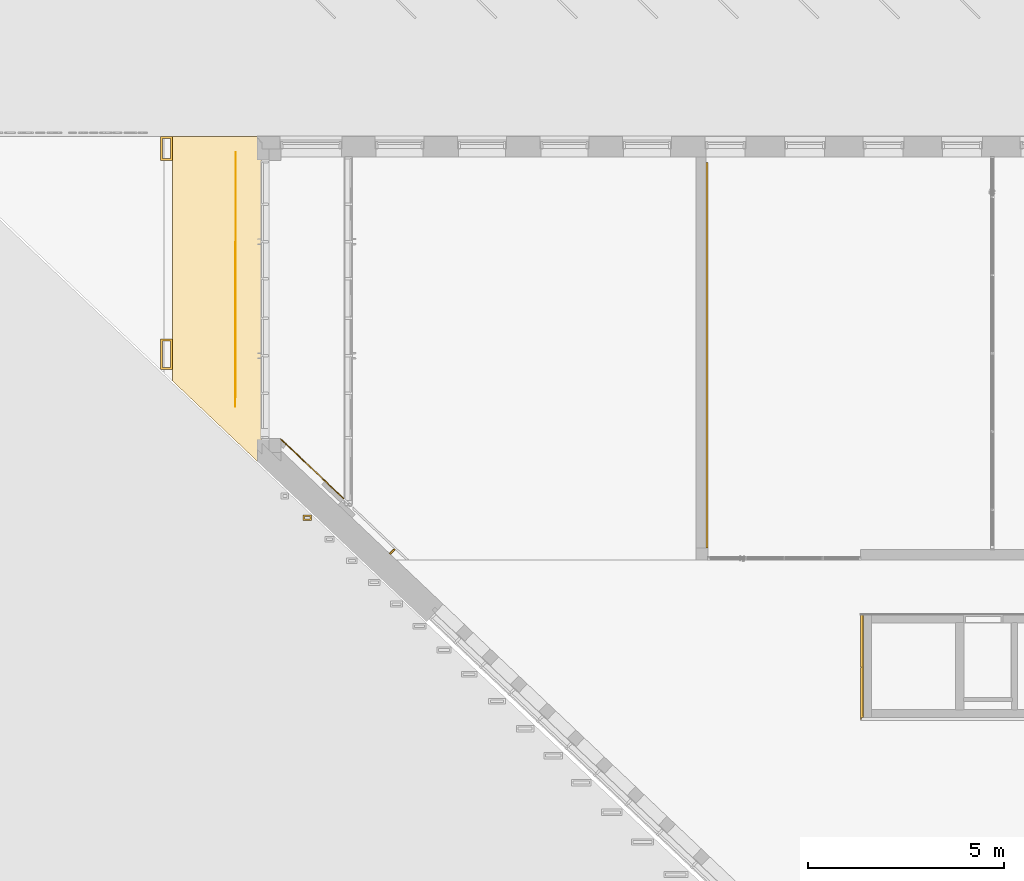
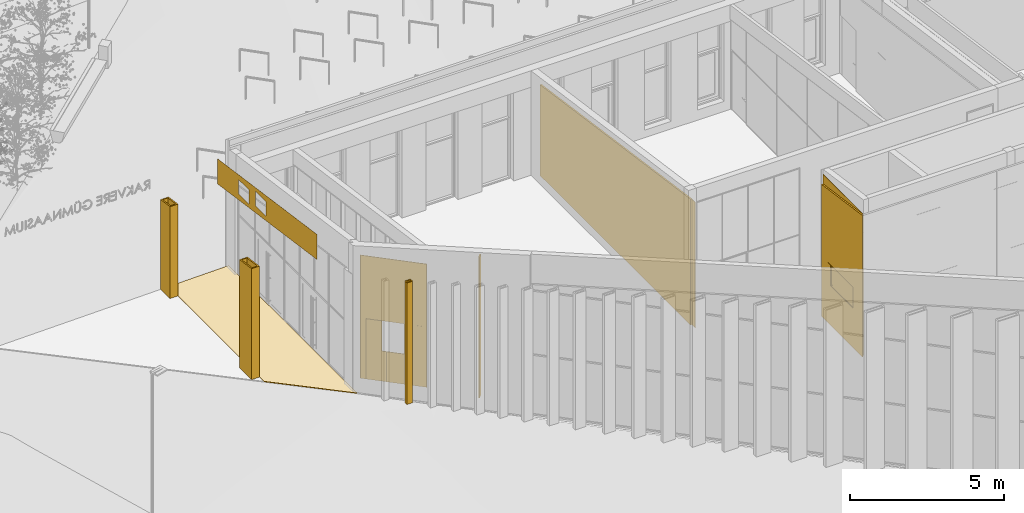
# One storey, part 178 of 246: 9 coverings, 2 doors, 4 openings.
"""IFC2X3 building model written with IfcOpenShell, lengths in millimetres."""

from ifc_helpers import new_model, entity, si_unit, converted_unit, derived_unit, money_unit, direction, frame, origin_with_axes, place, context, subcontext, project, spatial, faceted_brep, material, material_list, type_object, element, fill, save


model = new_model("IFC2X3")

# Units and contexts
model_context = context("Model", 3, precision=0.01, world=origin_with_axes(), true_north=direction((0.0, 1.0)))
body_context = subcontext(model_context, "Body", "Model", "MODEL_VIEW")
ifc_project = project(units=[si_unit("LENGTHUNIT", "METRE", prefix="MILLI"), si_unit("AREAUNIT", "SQUARE_METRE"), si_unit("VOLUMEUNIT", "CUBIC_METRE"), converted_unit("PLANEANGLEUNIT", "DEGREE", entity("IfcPlaneAngleMeasure", 0.0174532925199), si_unit("PLANEANGLEUNIT", "RADIAN"), dimensions=[0, 0, 0, 0, 0, 0, 0]), si_unit("SOLIDANGLEUNIT", "STERADIAN"), money_unit("EUR"), converted_unit("TIMEUNIT", "Year", entity("IfcTimeMeasure", 31556926.0), si_unit("TIMEUNIT", "SECOND"), dimensions=[0, 0, 1, 0, 0, 0, 0]), si_unit("MASSUNIT", "GRAM", prefix="KILO"), si_unit("THERMODYNAMICTEMPERATUREUNIT", "DEGREE_CELSIUS"), si_unit("LUMINOUSINTENSITYUNIT", "LUMEN"), si_unit("ENERGYUNIT", "JOULE", prefix="MEGA"), derived_unit("THERMALCONDUCTANCEUNIT", [(si_unit("POWERUNIT", "WATT"), 1), (si_unit("LENGTHUNIT", "METRE"), -1), (si_unit("THERMODYNAMICTEMPERATUREUNIT", "KELVIN"), -1)]), derived_unit("SPECIFICHEATCAPACITYUNIT", [(si_unit("ENERGYUNIT", "JOULE"), 1), (si_unit("MASSUNIT", "GRAM", prefix="KILO"), -1), (si_unit("THERMODYNAMICTEMPERATUREUNIT", "KELVIN"), -1)]), derived_unit("MASSDENSITYUNIT", [(si_unit("MASSUNIT", "GRAM", prefix="KILO"), 1), (si_unit("VOLUMEUNIT", "CUBIC_METRE"), -1)])], contexts=[model_context])

# Site, building, storey
site_placement = place(None, origin_with_axes())
site = spatial("IfcSite", under=ifc_project, at=site_placement, Name="L.Koidula tn 11b", CompositionType="ELEMENT")
building_placement = place(site_placement, origin_with_axes())
building = spatial("IfcBuilding", under=site, at=building_placement, Name="Rakvere Riigigümnaasium", CompositionType="ELEMENT")
storey_placement = place(building_placement, origin_with_axes())
storey = spatial("IfcBuildingStorey", under=building, at=storey_placement, Name="1.korrus 0,00", CompositionType="ELEMENT", Elevation=0.0)

# Covering, openings, doors
ifc_material_1 = material(Name="MDF")
covering_type_1 = type_object("IfcCoveringType", Name="MDF 20", PredefinedType="CLADDING")
covering_1_placement = place(storey_placement, frame((14730.0342033, 64425.3443865, 0.0), z_axis=(0.0, 0.0, 1.0), x_axis=(0.725934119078, -0.687764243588, 0.0)))
covering_1 = element("IfcCovering", 1, at=covering_1_placement, inside=storey, type_object=covering_type_1, material=ifc_material_1, Name="S-12", PredefinedType="CLADDING", context=body_context, shape_type="Brep", body=[
    faceted_brep([(0.000146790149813, 0.000139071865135, 2401.0), (0.000146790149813, 0.000139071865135, 4593.1942667), (738.118302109, 0.000220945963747, 4665.44373749), (738.118302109, 0.000220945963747, 2401.0), (2.83112327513, -2.98795232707, 4593.78009272), (18.9483926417, -19.9997057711, 2401.0), (18.9486660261, -19.999994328, 4898.32839243), (2.83112327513, -2.98795232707, 4898.32839243), (738.118301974, -1.32627138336, 4665.58078499), (738.118301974, -1.32627138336, 4898.32839243), (738.118300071, -19.999779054, 4898.32839243), (738.118300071, -19.999779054, 2401.0)], [[[0, 1, 2, 3]], [[4, 1, 0, 5, 6, 7]], [[1, 4, 8, 2]], [[2, 8, 9, 10, 11, 3]], [[5, 0, 3, 11]], [[6, 5, 11, 10]], [[7, 6, 10, 9]], [[4, 7, 9, 8]]]),
    faceted_brep([(0.000146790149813, 0.000139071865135, 0.0), (0.000146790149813, 0.000139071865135, 2399.0), (212.0, 0.000274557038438, 2399.0), (212.0, 0.0, 0.0), (18.9483926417, -19.9997057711, 2399.0), (18.9486713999, -20.0, 0.0), (212.0, -19.999725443, 2399.0), (212.0, -20.0, 0.0)], [[[0, 1, 2, 3]], [[4, 1, 0, 5]], [[1, 4, 6, 2]], [[3, 2, 6, 7]], [[5, 0, 3, 7]], [[4, 5, 7, 6]]]),
    faceted_brep([(1562.0, 0.0, 1200.0), (1479.45163544, 0.000145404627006, 1200.0), (1479.45163544, 0.000145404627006, 2399.0), (2217.78496878, 7.01689799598e-05, 2399.0), (2217.78496878, 7.01689799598e-05, 2401.0), (1479.45163544, 0.000145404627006, 2401.0), (1479.45163544, 0.000145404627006, 4898.32839243), (2237.22162248, 0.0, 4898.32839243), (2237.22162248, 0.0, 0.0), (1562.0, 0.0, 0.0), (1562.0, -20.0, 1200.0), (1479.4516334, -19.9998545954, 1200.0), (1479.4516334, -19.9998545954, 2399.0), (2217.78496674, -19.999929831, 2399.0), (2217.78496674, -19.999929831, 2401.0), (1479.4516334, -19.9998545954, 2401.0), (1479.4516334, -19.9998545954, 4898.32839243), (2237.22162248, -20.0, 4898.32839243), (2237.22162248, -20.0, 0.0), (1562.0, -20.0, 0.0)], [[[0, 1, 2, 3, 4, 5, 6, 7, 8, 9]], [[0, 10, 11, 1]], [[1, 11, 12, 2]], [[12, 13, 3, 2]], [[13, 14, 4, 3]], [[14, 15, 5, 4]], [[16, 6, 5, 15]], [[17, 7, 6, 16]], [[17, 18, 8, 7]], [[8, 18, 19, 9]], [[19, 10, 0, 9]], [[15, 14, 13, 12, 11, 10, 19, 18, 17, 16]]]),
    faceted_brep([(740.118302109, 0.000220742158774, 4665.6395042), (1325.05246721, 0.000145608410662, 4722.89482581), (1325.05933858, 0.000161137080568, 4898.32839243), (1477.45163544, 0.000145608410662, 4898.32839243), (1477.45163544, 0.000145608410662, 2401.0), (740.118302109, 0.000220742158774, 2401.0), (740.118301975, -1.32175156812, 4665.77608472), (740.118301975, -1.32175156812, 4898.32839243), (740.118300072, -19.9997792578, 4898.32839243), (1477.4516334, -19.9998543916, 4898.32839243), (1477.4516334, -19.9998543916, 2401.0), (740.118300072, -19.9997792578, 2401.0)], [[[0, 1, 2, 3, 4, 5]], [[1, 0, 6]], [[7, 2, 1, 6]], [[2, 7, 8, 9, 3]], [[9, 10, 4, 3]], [[11, 5, 4, 10]], [[6, 0, 5, 11, 8, 7]], [[8, 11, 10, 9]]]),
])
opening_1_placement = place(covering_1_placement, frame((1224.5, 0.0, 0.0), z_axis=(0.0, 0.0, 1.0), x_axis=(1.0, 0.0, 0.0)))
opening_1 = element("IfcOpeningElement", 2, at=opening_1_placement, cuts=covering_1, Name="SL01", context=body_context, shape_type="Brep", body=[
    faceted_brep([(337.5, -20.0, 1200.0), (337.5, -20.0, 0.0), (337.5, 40.0, 0.0), (337.5, 40.0, 1200.0), (-337.5, -20.0, 1200.0), (-337.5, -20.0, 0.0), (-337.5, 40.0, 0.0), (-337.5, 40.0, 1200.0)], [[[0, 1, 2, 3]], [[0, 4, 5, 1]], [[1, 5, 6, 2]], [[3, 2, 6, 7]], [[4, 0, 3, 7]], [[5, 4, 7, 6]]]),
])
opening_2_placement = place(covering_1_placement, frame((549.5, 0.0, 0.0), z_axis=(0.0, 0.0, 1.0), x_axis=(1.0, 0.0, 0.0)))
opening_2 = element("IfcOpeningElement", 3, at=opening_2_placement, cuts=covering_1, Name="SL01.2", context=body_context, shape_type="Brep", body=[
    faceted_brep([(-337.5, 40.0, 2400.0), (-337.5, 40.0, 0.0), (-337.5, -20.0, 0.0), (-337.5, -20.0, 2400.0), (337.5, 40.0, 2400.0), (337.5, 40.0, 0.0), (337.5, -20.0, 0.0), (337.5, -20.0, 2400.0)], [[[0, 1, 2, 3]], [[0, 4, 5, 1]], [[1, 5, 6, 2]], [[3, 2, 6, 7]], [[4, 0, 3, 7]], [[5, 4, 7, 6]]]),
])
door_style_1 = type_object("IfcDoorStyle", Name="Door 23", ConstructionType="NOTDEFINED", OperationType="SINGLE_SWING_RIGHT", ParameterTakesPrecedence=False, Sizeable=False)
door_1_placement = place(opening_1_placement, frame((-337.5, 0.0, 0.0), z_axis=(0.0, 0.0, 1.0), x_axis=(1.0, 0.0, 0.0)))
door_1 = element("IfcDoor", 4, at=door_1_placement, inside=storey, type_object=door_style_1, Name="SL01", ObjectType="DOOR", OverallHeight=1200.0, OverallWidth=675.0, context=body_context, shape_type="Brep", body=[
    faceted_brep([(0.0, -20.0, 1200.0), (590.451633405, -19.9998543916, 1200.0), (590.451635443, 0.000145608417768, 1200.0), (0.0, 0.0, 1200.0), (0.0, -20.0, 0.0), (590.451633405, -19.9998543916, 0.0), (590.451635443, 0.000145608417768, 0.0), (0.0, 0.0, 0.0)], [[[0, 1, 2, 3]], [[4, 5, 1, 0]], [[5, 6, 2, 1]], [[3, 2, 6, 7]], [[0, 3, 7, 4]], [[7, 6, 5, 4]]]),
    faceted_brep([(675.0, 0.0, 0.0), (592.451635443, 0.000145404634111, 0.0), (592.451635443, 0.000145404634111, 1200.0), (675.0, 0.0, 1200.0), (675.0, -20.0, 0.0), (592.451633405, -19.9998545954, 0.0), (592.451633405, -19.9998545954, 1200.0), (675.0, -20.0, 1200.0)], [[[0, 1, 2, 3]], [[4, 5, 1, 0]], [[5, 6, 2, 1]], [[3, 2, 6, 7]], [[4, 0, 3, 7]], [[7, 6, 5, 4]]]),
])
fill(opening_1, door_1)
door_style_2 = type_object("IfcDoorStyle", Name="Door 23", ConstructionType="NOTDEFINED", OperationType="SINGLE_SWING_LEFT", ParameterTakesPrecedence=False, Sizeable=False)
door_2_placement = place(opening_2_placement, frame((-337.5, 0.0, 0.0), z_axis=(0.0, 0.0, 1.0), x_axis=(1.0, 0.0, 0.0)))
door_2 = element("IfcDoor", 5, at=door_2_placement, inside=storey, type_object=door_style_2, Name="SL01.2", ObjectType="DOOR", OverallHeight=2400.0, OverallWidth=675.0, context=body_context, shape_type="Brep", body=[
    faceted_brep([(0.0, 0.0, 0.0), (0.0, 0.000274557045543, 2399.0), (526.118302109, 0.000220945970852, 2399.0), (526.118302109, 0.000220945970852, 0.0), (0.0, -20.0, 0.0), (0.0, -19.999725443, 2399.0), (526.118300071, -19.999779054, 2399.0), (526.118300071, -19.999779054, 0.0)], [[[0, 1, 2, 3]], [[4, 5, 1, 0]], [[5, 6, 2, 1]], [[3, 2, 6, 7]], [[0, 3, 7, 4]], [[7, 6, 5, 4]]]),
    faceted_brep([(528.118302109, 0.00022074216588, 1200.0), (675.0, 0.000205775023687, 1200.0), (675.0, 0.0, 0.0), (528.118302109, 0.00022074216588, 0.0), (675.0, -19.9998970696, 1200.0), (528.118300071, -19.9997792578, 1200.0), (675.0, -20.0, 0.0), (528.118300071, -19.9997792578, 0.0)], [[[0, 1, 2, 3]], [[4, 1, 0, 5]], [[1, 4, 6, 2]], [[6, 7, 3, 2]], [[5, 0, 3, 7]], [[4, 5, 7, 6]]]),
])
fill(opening_2, door_2)

# Coverings
ifc_material_2 = material(Name="Karkass-puit")
ifc_material_3 = material(Name="Puit-fassaad")
ifc_material_list_1 = material_list([ifc_material_2, ifc_material_3])
covering_type_2 = type_object("IfcCoveringType", Name="AR_Post_laudisega 300 x 786", PredefinedType="CLADDING")
covering_2_placement = place(storey_placement, frame((11851.2708409, 66580.7486819, -68.2248056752), z_axis=(0.0, 0.0, 1.0), x_axis=(1.0, 0.0, 0.0)))
element("IfcCovering", 6, at=covering_2_placement, inside=storey, type_object=covering_type_2, material=ifc_material_list_1, Name="Postid", PredefinedType="CLADDING", context=body_context, shape_type="Brep", body=[
    faceted_brep([(62.7635656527, -346.999969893, 4405.51159128), (62.7635656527, 334.852628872, 4308.46959595), (62.7635656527, 334.852628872, 0.0), (62.7635656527, -346.999969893, 0.0), (94.7635642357, -378.999968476, 4410.06586532), (94.7635642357, 366.999968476, 4303.89435182), (-164.715839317, 366.999968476, 4303.89435328), (-164.715839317, -378.999968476, 4410.06586679), (-133.106962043, 334.852628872, 4308.46959706), (-133.106962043, -346.999969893, 4405.51159239), (-133.106962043, 334.852628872, 0.0), (-164.715839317, 366.999968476, 0.0), (94.7635642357, 366.999968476, 0.0), (94.7635642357, -378.999968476, 0.0), (-164.715839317, -378.999968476, 0.0), (-133.106962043, -346.999969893, 0.0)], [[[0, 1, 2, 3]], [[4, 5, 6, 7], [8, 1, 0, 9]], [[1, 8, 10, 2]], [[11, 12, 13, 14], [10, 15, 3, 2]], [[9, 0, 3, 15]], [[5, 4, 13, 12]], [[6, 5, 12, 11]], [[7, 6, 11, 14]], [[4, 7, 14, 13]], [[8, 9, 15, 10]]]),
    faceted_brep([(94.7635646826, -378.999966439, 4410.06586503), (94.7635646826, 366.999966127, 4303.89435215), (94.7635646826, 366.999966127, 0.0), (94.7635646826, -378.999966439, 0.0), (114.76356488, -398.999966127, 4412.91228639), (114.763564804, 386.999966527, 4301.04793047), (-184.763564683, 386.999966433, 4301.04793217), (-184.763564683, -398.999966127, 4412.91228808), (-164.715834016, 366.999966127, 4303.89435362), (-164.715834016, -378.999966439, 4410.0658665), (-164.715834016, 366.999966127, 0.0), (-184.763564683, -398.999966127, 0.0), (-184.763564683, 386.999966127, 0.0), (114.763564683, 386.999966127, 0.0), (114.763564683, -398.999966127, 0.0), (-164.715834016, -378.999966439, 0.0)], [[[0, 1, 2, 3]], [[4, 5, 6, 7], [8, 1, 0, 9]], [[1, 8, 10, 2]], [[11, 12, 13, 14], [3, 2, 10, 15]], [[9, 0, 3, 15]], [[5, 4, 14, 13]], [[6, 5, 13, 12]], [[7, 6, 12, 11]], [[4, 7, 11, 14]], [[8, 9, 15, 10]]]),
])
covering_type_3 = type_object("IfcCoveringType", Name="AR-Post_laudisega-1 300 x 614", PredefinedType="CLADDING")
covering_3_placement = place(storey_placement, frame((11851.2708409, 71999.45165, -65.442350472), z_axis=(0.0, 0.0, 1.0), x_axis=(1.0, 0.0, 0.0)))
element("IfcCovering", 7, at=covering_3_placement, inside=storey, type_object=covering_type_3, material=ifc_material_list_1, Name="Postid", PredefinedType="CLADDING", context=body_context, shape_type="Brep", body=[
    faceted_brep([(62.7635662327, -446.999966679, 3645.76560786), (62.7635662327, 62.8526351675, 3573.20283711), (62.7635662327, 62.8526351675, 0.0), (62.7635662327, -446.999966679, 0.0), (94.7635623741, -478.99996282, 3650.31988155), (94.7635623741, 94.99996282, 3568.62759468), (-164.715838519, 94.99996282, 3568.62759615), (-164.715838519, -478.99996282, 3650.31988302), (-133.106966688, 62.8526351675, 3573.20283822), (-133.106966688, -446.999966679, 3645.76560897), (-133.106966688, 62.8526351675, 0.0), (-164.715838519, 94.99996282, 0.0), (94.7635623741, 94.99996282, 0.0), (94.7635623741, -478.99996282, 0.0), (-164.715838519, -478.99996282, 0.0), (-133.106966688, -446.999966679, 0.0)], [[[0, 1, 2, 3]], [[4, 5, 6, 7], [8, 1, 0, 9]], [[1, 8, 10, 2]], [[11, 12, 13, 14], [10, 15, 3, 2]], [[9, 0, 3, 15]], [[5, 4, 13, 12]], [[6, 5, 12, 11]], [[7, 6, 11, 14]], [[4, 7, 14, 13]], [[8, 9, 15, 10]]]),
    faceted_brep([(94.7635646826, -478.999966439, 3650.31988207), (94.7635646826, 94.9999661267, 3568.62759421), (94.7635646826, 94.9999661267, 0.0), (94.7635646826, -478.999966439, 0.0), (114.763564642, -499.000033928, 3653.16631307), (114.763564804, 115.000078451, 3565.7811566), (-184.763564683, 115.000078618, 3565.78115827), (-184.763564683, -499.000034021, 3653.16631478), (-164.715834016, 94.9999661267, 3568.62759568), (-164.715834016, -478.999966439, 3650.31988353), (-164.715834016, 94.9999661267, 0.0), (-184.763564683, -498.999966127, 0.0), (-184.763564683, 114.999966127, 0.0), (114.763564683, 114.999966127, 0.0), (114.763564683, -498.999966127, 0.0), (-164.715834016, -478.999966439, 0.0)], [[[0, 1, 2, 3]], [[4, 5, 6, 7], [8, 1, 0, 9]], [[1, 8, 10, 2]], [[11, 12, 13, 14], [3, 2, 10, 15]], [[9, 0, 3, 15]], [[5, 4, 14, 13]], [[6, 5, 13, 12]], [[7, 6, 12, 11]], [[4, 7, 11, 14]], [[8, 9, 15, 10]]]),
])
ifc_material_4 = material(Name="Klaasvill")
ifc_material_list_2 = material_list([ifc_material_1, ifc_material_4])
covering_type_4 = type_object("IfcCoveringType", Name="SA - Akustiline sein 70 70", PredefinedType="CLADDING")
covering_4_placement = place(storey_placement, frame((29559.9900192, 57320.4546496, 0.0), z_axis=(0.0, 0.0, 1.0), x_axis=(0.0, 1.0, 0.0)))
element("IfcCovering", 8, at=covering_4_placement, inside=storey, type_object=covering_type_4, material=ifc_material_list_2, Name="S-03", PredefinedType="CLADDING", context=body_context, shape_type="Brep", body=[
    faceted_brep([(557.0, 70.0, 2399.0), (557.0, 50.0, 2399.0), (557.0, 50.0, 0.0), (557.0, 70.0, 0.0), (-50.0, 50.0, 2399.0), (-50.0, 70.0, 2399.0), (-50.0, 50.0, 0.0), (-50.0, 70.0, 0.0)], [[[0, 1, 2, 3]], [[4, 1, 0, 5]], [[1, 4, 6, 2]], [[3, 2, 6, 7]], [[5, 0, 3, 7]], [[4, 5, 7, 6]]]),
    faceted_brep([(1284.0, 50.0, 0.0), (1284.0, 50.0, 1568.99999966), (559.0, 50.0, 1568.99999966), (559.0, 50.0, 0.0), (1284.0, 70.0, 1569.0), (1284.0, 70.0, 0.0), (559.0, 70.0, 1569.0), (559.0, 70.0, 0.0)], [[[0, 1, 2, 3]], [[4, 1, 0, 5]], [[1, 4, 6, 2]], [[3, 2, 6, 7]], [[5, 0, 3, 7]], [[4, 5, 7, 6]]]),
    faceted_brep([(1284.0, 70.0, 4949.0), (1284.0, 50.0, 4949.0), (1284.0, 50.0, 2401.0), (1284.0, 70.0, 2401.0), (559.0, 50.0, 4949.0), (559.0, 70.0, 4949.0), (559.0, 50.0, 2401.0), (559.0, 70.0, 2401.0)], [[[0, 1, 2, 3]], [[4, 1, 0, 5]], [[1, 4, 6, 2]], [[3, 2, 6, 7]], [[5, 0, 3, 7]], [[4, 5, 7, 6]]]),
    faceted_brep([(2011.0, 50.0, 0.0), (2011.0, 50.0, 1568.99999966), (1286.0, 50.0, 1568.99999966), (1286.0, 50.0, 0.0), (2011.0, 70.0, 1569.0), (2011.0, 70.0, 0.0), (1286.0, 70.0, 1569.0), (1286.0, 70.0, 0.0)], [[[0, 1, 2, 3]], [[4, 1, 0, 5]], [[1, 4, 6, 2]], [[3, 2, 6, 7]], [[5, 0, 3, 7]], [[4, 5, 7, 6]]]),
    faceted_brep([(2011.0, 70.0, 4949.0), (2011.0, 50.0, 4949.0), (2011.0, 50.0, 2401.0), (2011.0, 70.0, 2401.0), (1286.0, 50.0, 4949.0), (1286.0, 70.0, 4949.0), (1286.0, 50.0, 2401.0), (1286.0, 70.0, 2401.0), (1714.29666667, 54.9524999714, 2401.0), (1811.22333333, 54.9524999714, 2401.0), (1811.22333333, 60.7399999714, 2401.0), (1714.29666667, 60.7399999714, 2401.0), (1818.14666667, 54.9524999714, 2401.0), (1915.07333333, 54.9524999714, 2401.0), (1915.07333333, 60.7399999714, 2401.0), (1818.14666667, 60.7399999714, 2401.0), (1658.91, 54.9524999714, 2401.0), (1707.37333333, 54.9524999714, 2401.0), (1707.37333333, 60.7399999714, 2401.0), (1658.91, 60.7399999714, 2401.0), (1714.29666667, 54.9524999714, 2401.6), (1811.22333333, 54.9524999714, 2401.6), (1811.22333333, 60.7399999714, 2401.6), (1714.29666667, 60.7399999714, 2401.6), (1818.14666667, 54.9524999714, 2401.6), (1915.07333333, 54.9524999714, 2401.6), (1915.07333333, 60.7399999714, 2401.6), (1818.14666667, 60.7399999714, 2401.6), (1658.91, 54.9524999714, 2401.6), (1707.37333333, 54.9524999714, 2401.6), (1707.37333333, 60.7399999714, 2401.6), (1658.91, 60.7399999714, 2401.6)], [[[0, 1, 2, 3]], [[4, 1, 0, 5]], [[1, 4, 6, 2]], [[3, 2, 6, 7], [8, 9, 10, 11], [12, 13, 14, 15], [16, 17, 18, 19]], [[5, 0, 3, 7]], [[4, 5, 7, 6]], [[9, 8, 20, 21]], [[10, 9, 21, 22]], [[11, 10, 22, 23]], [[8, 11, 23, 20]], [[13, 12, 24, 25]], [[14, 13, 25, 26]], [[15, 14, 26, 27]], [[12, 15, 27, 24]], [[17, 16, 28, 29]], [[18, 17, 29, 30]], [[19, 18, 30, 31]], [[16, 19, 31, 28]], [[20, 23, 22, 21]], [[24, 27, 26, 25]], [[28, 31, 30, 29]]]),
    faceted_brep([(2620.0, 70.0, 2399.0), (2619.99999997, 50.0, 2399.0), (2619.99999997, 50.0, 0.0), (2620.0, 70.0, 0.0), (2013.0, 50.0, 2399.0), (2013.0, 70.0, 2399.0), (2013.0, 50.0, 0.0), (2013.0, 70.0, 0.0)], [[[0, 1, 2, 3]], [[4, 1, 0, 5]], [[1, 4, 6, 2]], [[6, 7, 3, 2]], [[5, 0, 3, 7]], [[4, 5, 7, 6]]]),
    faceted_brep([(557.0, 70.0, 4949.0), (557.0, 50.0, 4949.0), (557.0, 50.0, 2401.0), (557.0, 70.0, 2401.0), (-50.0, 50.0, 4949.0), (-50.0, 70.0, 4949.0), (-50.0, 50.0, 2401.0), (-50.0, 70.0, 2401.0)], [[[0, 1, 2, 3]], [[4, 1, 0, 5]], [[1, 4, 6, 2]], [[3, 2, 6, 7]], [[5, 0, 3, 7]], [[4, 5, 7, 6]]]),
    faceted_brep([(-50.0, 50.0, 4951.0), (557.0, 50.0, 4951.0), (557.0, 50.0, 5543.62144658), (-50.0, 50.0, 5630.01033954), (557.0, 70.0, 4951.0), (-50.0, 70.0, 4951.0), (557.0, 70.0, 5543.62144658), (-50.0, 70.0, 5630.01033954)], [[[0, 1, 2, 3]], [[4, 1, 0, 5]], [[1, 4, 6, 2]], [[2, 6, 7, 3]], [[5, 0, 3, 7]], [[4, 5, 7, 6]]]),
    faceted_brep([(559.0, 50.0, 4951.0), (1284.0, 50.0, 4951.0), (1284.0, 50.0, 5440.15402455), (559.0, 50.0, 5543.33680443), (1284.0, 70.0, 4951.0), (559.0, 70.0, 4951.0), (1284.0, 70.0, 5440.15402455), (559.0, 70.0, 5543.33680443)], [[[0, 1, 2, 3]], [[4, 1, 0, 5]], [[1, 4, 6, 2]], [[2, 6, 7, 3]], [[5, 0, 3, 7]], [[4, 5, 7, 6]]]),
    faceted_brep([(1286.0, 50.0, 4951.0), (2011.0, 50.0, 4951.0), (2011.0, 50.0, 5336.68660251), (1286.0, 50.0, 5439.8693824), (2011.0, 70.0, 4951.0), (1286.0, 70.0, 4951.0), (2011.0, 70.0, 5336.68660251), (1286.0, 70.0, 5439.8693824)], [[[0, 1, 2, 3]], [[4, 1, 0, 5]], [[1, 4, 6, 2]], [[2, 6, 7, 3]], [[5, 0, 3, 7]], [[4, 5, 7, 6]]]),
    faceted_brep([(2620.0, 70.0, 4949.0), (2619.99999997, 50.0, 4949.0), (2619.99999997, 50.0, 2401.0), (2620.0, 70.0, 2401.0), (2013.0, 50.0, 4949.0), (2013.0, 70.0, 4949.0), (2013.0, 50.0, 2401.0), (2013.0, 70.0, 2401.0)], [[[0, 1, 2, 3]], [[4, 1, 0, 5]], [[1, 4, 6, 2]], [[3, 2, 6, 7]], [[5, 0, 3, 7]], [[4, 5, 7, 6]]]),
    faceted_brep([(2013.0, 50.0, 4951.0), (2619.99999997, 50.0, 4951.0), (2619.99999997, 50.0, 5250.01306741), (2013.0, 50.0, 5336.40196036), (2620.0, 70.0, 4951.0), (2013.0, 70.0, 4951.0), (2620.0, 70.0, 5250.01306741), (2013.0, 70.0, 5336.40196036)], [[[0, 1, 2, 3]], [[4, 1, 0, 5]], [[1, 4, 6, 2]], [[7, 3, 2, 6]], [[5, 0, 3, 7]], [[4, 5, 7, 6]]]),
    faceted_brep([(2619.99999997, 50.0, 0.0), (0.0, 50.0, 0.0), (0.0, 50.0, 5622.89428575), (2619.99999997, 50.0, 5250.01306741), (558.100000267, 50.0, 2399.99999987), (558.100000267, 50.0, 1568.99999966), (2012.00000034, 50.0, 1568.99999966), (2012.00000034, 50.0, 2399.99999987), (0.0, 0.0, 0.0), (2619.9999999, 0.0, 0.0), (0.0, 0.0, 5632.85676088), (0.0, 10.1698053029, 5632.85676088), (0.0, 10.1698053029, 5622.89428575), (2619.99999991, 10.1698053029, 5250.01306742), (2619.99999991, 10.1698053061, 5632.85676088), (2619.9999999, 0.0, 5632.85676088), (558.100000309, 46.8499999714, 1568.99999961), (558.100000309, 46.8499999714, 2399.99999985), (2012.00000039, 46.8499999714, 1568.99999961), (2012.00000039, 46.8499999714, 2399.99999985), (644.49697572, 23.7000001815, 2313.60302444), (644.49697572, 23.7000001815, 1655.39697502), (1925.60302498, 23.7000001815, 1655.39697502), (1925.60302498, 23.7000001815, 2313.60302444)], [[[0, 1, 2, 3], [4, 5, 6, 7]], [[8, 1, 0, 9]], [[10, 11, 12, 2, 1, 8]], [[2, 12, 13, 3]], [[9, 0, 3, 13, 14, 15]], [[16, 5, 4, 17]], [[18, 6, 5, 16]], [[19, 7, 6, 18]], [[17, 4, 7, 19]], [[10, 8, 9, 15]], [[15, 14, 11, 10]], [[12, 11, 14, 13]], [[20, 21, 16, 17]], [[21, 22, 18, 16]], [[22, 23, 19, 18]], [[23, 20, 17, 19]], [[21, 20, 23, 22]]]),
])
covering_type_5 = type_object("IfcCoveringType", Name="SA - Akustiline sein 57", PredefinedType="CLADDING")
covering_5_placement = place(storey_placement, frame((25549.9998772, 71450.4516856, 0.0), z_axis=(0.0, 0.0, 1.0), x_axis=(0.0, -1.0, 0.0)))
element("IfcCovering", 9, at=covering_5_placement, inside=storey, type_object=covering_type_5, material=ifc_material_list_2, Name="S-03", PredefinedType="CLADDING", context=body_context, shape_type="Brep", body=[
    faceted_brep([(10029.997036, 57.0, 5000.00013411), (10029.997036, 57.0, 0.0), (0.0, 57.0, 0.0), (0.0, 57.0, 3611.38005635), (9756.95321936, 57.0, 5000.00013411), (1990.00000177, 57.0, 925.0), (4990.00000178, 57.0, 925.0), (7990.00000178, 57.0, 925.0), (7990.00000178, 57.0, 2430.0), (4990.00000178, 57.0, 2430.0), (1990.00000177, 57.0, 2430.0), (10029.997036, 50.0000230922, 5000.00013411), (10029.997036, 50.0000230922, 0.0), (9809.99703599, 50.0000230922, 0.0), (9809.99703599, 41.0, 0.0), (0.0, 41.0, 0.0), (0.0, 41.0, 3611.38005644), (9756.95321872, 41.0, 5000.00013411), (9809.99703599, 41.0, 5000.00013411), (9809.99703599, 50.0000230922, 5000.00013411), (1990.00000177, 41.0, 925.0), (4990.00000178, 41.0, 925.0), (7990.00000178, 41.0, 925.0), (7990.00000178, 41.0, 2430.0), (4990.00000178, 41.0, 2430.0), (1990.00000177, 41.0, 2430.0)], [[[0, 1, 2, 3, 4], [5, 6, 7, 8, 9, 10]], [[0, 11, 12, 1]], [[12, 13, 14, 15, 2, 1]], [[3, 2, 15, 16]], [[3, 16, 17, 4]], [[18, 19, 11, 0, 4, 17]], [[6, 5, 20, 21, 22, 7]], [[22, 23, 8, 7]], [[24, 25, 10, 9, 8, 23]], [[5, 10, 25, 20]], [[12, 11, 19, 13]], [[13, 19, 18, 14]], [[15, 14, 18, 17, 16], [25, 24, 23, 22, 21, 20]]]),
    faceted_brep([(1990.00000177, 41.0, 925.0), (1990.00000177, 41.0, 2430.0), (1990.00000177, 40.0, 2430.0), (1990.00000177, 40.0, 925.0), (9756.95321872, 41.0, 5000.00013411), (9809.99703599, 41.0, 5000.00013411), (9809.99703599, 41.0, 0.0), (0.0, 41.0, 0.0), (0.0, 41.0, 3611.38005644), (4990.00000178, 41.0, 925.0), (7990.00000178, 41.0, 925.0), (7990.00000178, 41.0, 2430.0), (4990.00000178, 41.0, 2430.0), (7990.00000178, 40.0, 2430.0), (7990.00000178, 40.0, 925.0), (9756.95321709, -1.67621294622e-06, 5000.00013411), (9809.99703599, -1.35057831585e-06, 5000.00013411), (9809.99703599, 0.0, 0.0), (0.0, 0.0, 0.0), (0.0, -1.67621649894e-06, 3611.38005667)], [[[0, 1, 2, 3]], [[4, 5, 6, 7, 8], [0, 9, 10, 11, 12, 1]], [[2, 1, 12, 11, 13]], [[3, 2, 13, 14]], [[9, 0, 3, 14, 10]], [[15, 16, 5, 4]], [[17, 6, 5, 16]], [[7, 6, 17, 18]], [[8, 7, 18, 19]], [[8, 19, 15, 4]], [[14, 13, 11, 10]], [[18, 17, 16, 15, 19]]]),
])
ifc_material_5 = material(Name="Terasrest-porirest")
covering_type_6 = type_object("IfcCoveringType", Name="Terasrest-porirest 24", PredefinedType="NOTDEFINED")
covering_6_placement = place(storey_placement, frame((14216.12752, 69621.5499024, -46.0110258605), z_axis=(0.0, 0.0, 1.0), x_axis=(0.0, 1.0, 0.0)))
element("IfcCovering", 10, at=covering_6_placement, inside=storey, type_object=covering_type_6, material=ifc_material_5, Name="Harjastega matt", PredefinedType="NOTDEFINED", context=body_context, shape_type="Brep", body=[
    faceted_brep([(-5870.3966471, -14.9066816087, 23.972069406), (2492.90178139, -14.9066816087, 23.972069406), (2492.90178139, 2250.00000011, -19.429533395), (-3724.57913042, 2250.00000011, -19.429533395), (-5870.39664749, -14.9066819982, 0.285651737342), (2492.90178168, -14.9066819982, 0.285651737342), (2492.90178168, 2250.00000015, -43.1159510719), (-3724.57913019, 2250.00000015, -43.1159510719)], [[[0, 1, 2, 3]], [[1, 0, 4, 5]], [[2, 1, 5, 6]], [[3, 2, 6, 7]], [[0, 3, 7, 4]], [[5, 4, 7, 6]]]),
])
ifc_material_6 = material(Name="Teras - Konstruktsioon")
ifc_material_list_3 = material_list([ifc_material_3, ifc_material_3, ifc_material_3, ifc_material_3, ifc_material_6])
covering_type_7 = type_object("IfcCoveringType", Name="AR-Lamell-laudisega 212 x 145", PredefinedType="NOTDEFINED")
covering_7_placement = place(storey_placement, frame((15400.3948033, 62414.3776535, 0.0), z_axis=(0.0, 0.0, 1.0), x_axis=(1.0, 0.0, 0.0)))
element("IfcCovering", 11, at=covering_7_placement, inside=storey, type_object=covering_type_7, material=ifc_material_list_3, Name="L-A2", PredefinedType="NOTDEFINED", context=body_context, shape_type="Brep", body=[
    faceted_brep([(-85.9999987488, -52.5193974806, 0.0), (-85.9999987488, -72.5007550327, 0.0), (-85.9999987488, -72.5007550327, 4835.0), (-85.9999987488, -52.5193974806, 4835.0), (55.9999954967, -52.5193946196, 0.0), (85.9999983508, -52.5007550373, 0.0), (106.000001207, -52.5007550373, 0.0), (105.999998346, -72.5007550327, 0.0), (105.999998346, -72.5007550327, 4835.0), (106.000001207, -52.5007550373, 4835.0), (85.9999983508, -52.5007550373, 4835.0), (55.9999954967, -52.5193946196, 4835.0)], [[[0, 1, 2, 3]], [[0, 4, 5, 6, 7, 1]], [[1, 7, 8, 2]], [[3, 2, 8, 9, 10, 11]], [[4, 0, 3, 11]], [[5, 4, 11, 10]], [[6, 5, 10, 9]], [[7, 6, 9, 8]]]),
    faceted_brep([(85.9999976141, -52.5007553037, 0.0), (106.000001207, -52.5007553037, 0.0), (106.000001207, -52.5007553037, 4835.0), (85.9999976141, -52.5007553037, 4835.0), (85.9999976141, 52.5007546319, 0.0), (85.9999976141, 72.500755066, 0.0), (106.000001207, 72.500755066, 0.0), (106.000001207, 72.500755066, 4835.0), (85.9999976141, 72.500755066, 4835.0), (85.9999976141, 52.5007546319, 4835.0)], [[[0, 1, 2, 3]], [[0, 4, 5, 6, 1]], [[1, 6, 7, 2]], [[3, 2, 7, 8, 9]], [[4, 0, 3, 9]], [[5, 4, 9, 8]], [[6, 5, 8, 7]]]),
    faceted_brep([(-105.999998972, 72.5007511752, 0.0), (-105.999998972, 52.5007542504, 0.0), (-105.999998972, 52.5007542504, 4835.0), (-105.999998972, 72.5007511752, 4835.0), (85.9999989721, 72.5007511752, 0.0), (85.9999989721, 52.5007542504, 0.0), (85.9999989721, 52.5007542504, 4835.0), (85.9999989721, 72.5007511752, 4835.0)], [[[0, 1, 2, 3]], [[0, 4, 5, 1]], [[1, 5, 6, 2]], [[3, 2, 6, 7]], [[4, 0, 3, 7]], [[5, 4, 7, 6]]]),
    faceted_brep([(-105.999998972, -72.5007550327, 0.0), (-85.9999991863, -72.5007550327, 0.0), (-85.9999991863, -72.5007550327, 4835.0), (-105.999998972, -72.5007550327, 4835.0), (-105.999998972, 52.5007542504, 0.0), (-86.2812494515, 52.5007542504, 0.0), (-86.2812494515, -52.51939769, 0.0), (-85.9999991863, -52.51939769, 0.0), (-85.9999991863, -52.51939769, 4835.0), (-86.2812494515, -52.51939769, 4835.0), (-86.2812494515, 52.5007542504, 4835.0), (-105.999998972, 52.5007542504, 4835.0)], [[[0, 1, 2, 3]], [[0, 4, 5, 6, 7, 1]], [[1, 7, 8, 2]], [[3, 2, 8, 9, 10, 11]], [[4, 0, 3, 11]], [[5, 4, 11, 10]], [[6, 5, 10, 9]], [[7, 6, 9, 8]]]),
    faceted_brep([(-86.281249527, -52.5193964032, 0.0), (55.9999954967, -52.5193946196, 0.0), (55.9999954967, -52.5193946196, 4835.0), (-86.281249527, -52.5193964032, 4835.0), (-86.281249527, 52.5007550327, 0.0), (85.9999989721, 52.5007550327, 0.0), (85.9999989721, -52.5193964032, 0.0), (-66.326915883, 32.6903233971, 0.0), (-66.326915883, -32.0297328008, 0.0), (65.6153001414, -32.0297328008, 0.0), (65.6153001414, 32.6903233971, 0.0), (85.9999989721, -52.5193964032, 4835.0), (85.9999989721, 52.5007550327, 4835.0), (-86.281249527, 52.5007550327, 4835.0), (-66.326915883, 32.6903233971, 4835.0), (65.6153001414, 32.6903233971, 4835.0), (65.6153001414, -32.0297328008, 4835.0), (-66.326915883, -32.0297328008, 4835.0)], [[[0, 1, 2, 3]], [[0, 4, 5, 6, 1], [7, 8, 9, 10]], [[1, 6, 11, 2]], [[3, 2, 11, 12, 13], [14, 15, 16, 17]], [[4, 0, 3, 13]], [[5, 4, 13, 12]], [[6, 5, 12, 11]], [[8, 7, 14, 17]], [[9, 8, 17, 16]], [[10, 9, 16, 15]], [[7, 10, 15, 14]]]),
])

# Covering, openings
ifc_material_7 = material(Name="Alumiinium.")
covering_type_8 = type_object("IfcCoveringType", Name="Alumiinium. 2", PredefinedType="NOTDEFINED")
covering_8_placement = place(storey_placement, frame((13571.9400588, 65234.8903228, 3677.11409168), z_axis=(0.0, 0.0, 1.0), x_axis=(0.000500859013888, 0.99999987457, 0.0)))
covering_8 = element("IfcCovering", 12, at=covering_8_placement, inside=storey, type_object=covering_type_8, material=ifc_material_7, Name="Plekk", PredefinedType="NOTDEFINED", context=body_context, shape_type="Brep", body=[
    faceted_brep([(6484.65950229, 0.0, 1020.04730812), (6484.65950229, -2.0, 1020.04745067), (6484.65950229, -2.0, 21.4278274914), (6484.65950229, 0.0, 21.4276849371), (0.0, -2.0, 1942.95105086), (0.0, 0.0, 1942.95090831), (0.0, -2.0, 944.331427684), (4437.19323506, -2.0, 1024.88590832), (5104.14036725, -2.0, 1024.88590832), (5104.14036725, -2.0, 457.927533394), (4437.19323506, -2.0, 457.927533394), (3330.24610287, -2.0, 1224.88590832), (3997.19323506, -2.0, 1224.88590832), (3997.19323506, -2.0, 657.927533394), (3330.24610287, -2.0, 657.927533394), (0.0, 0.0, 944.33128513), (5104.14036725, 0.0, 457.927533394), (5104.14036725, 0.0, 1024.88590832), (4437.19323506, 0.0, 1024.88590832), (4437.19323506, 0.0, 457.927533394), (3997.19323506, 0.0, 657.927533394), (3997.19323506, 0.0, 1224.88590832), (3330.24610287, 0.0, 1224.88590832), (3330.24610287, 0.0, 657.927533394)], [[[0, 1, 2, 3]], [[4, 1, 0, 5]], [[1, 4, 6, 2], [7, 8, 9, 10], [11, 12, 13, 14]], [[15, 3, 2, 6]], [[5, 0, 3, 15], [16, 17, 18, 19], [20, 21, 22, 23]], [[4, 5, 15, 6]], [[7, 18, 17, 8]], [[8, 17, 16, 9]], [[9, 16, 19, 10]], [[10, 19, 18, 7]], [[11, 22, 21, 12]], [[12, 21, 20, 13]], [[13, 20, 23, 14]], [[14, 23, 22, 11]]]),
])
opening_3_placement = place(covering_8_placement, frame((-65241.6797689, 13539.2648736, -3677.11409168), z_axis=(0.0, 0.0, 1.0), x_axis=(0.000500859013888, -0.99999987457, 0.0)))
element("IfcOpeningElement", 13, at=opening_3_placement, cuts=covering_8, Name="AVA", ObjectType="OPENING", context=body_context, shape_type="Brep", body=[
    faceted_brep([(13582.4358586, 69672.0788575, 4135.04162508), (13582.4358586, 69672.0788575, 4702.0), (13566.6921589, 69672.0867429, 4702.0), (13566.6921589, 69672.0867429, 4135.04162508), (13582.4358586, 70339.0260734, 4135.04162508), (13582.4358586, 70339.0260734, 4702.0), (13566.6921589, 70339.0339587, 4702.0), (13566.6921589, 70339.0339587, 4135.04162508)], [[[0, 1, 2, 3]], [[0, 4, 5, 1]], [[1, 5, 6, 2]], [[3, 2, 6, 7]], [[4, 0, 3, 7]], [[5, 4, 7, 6]]]),
])
opening_4_placement = place(covering_8_placement, frame((-65241.6797689, 13539.2648736, -3677.11409168), z_axis=(0.0, 0.0, 1.0), x_axis=(0.000500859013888, -0.99999987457, 0.0)))
element("IfcOpeningElement", 14, at=opening_4_placement, cuts=covering_8, Name="AVA", ObjectType="OPENING", context=body_context, shape_type="Brep", body=[
    faceted_brep([(13582.4358586, 68565.1315865, 4335.04162508), (13582.4358586, 68565.1315865, 4902.0), (13566.6921589, 68565.1394719, 4902.0), (13566.6921589, 68565.1394719, 4335.04162508), (13582.4358586, 69232.0788023, 4335.04162508), (13582.4358586, 69232.0788023, 4902.0), (13566.6921589, 69232.0866877, 4902.0), (13566.6921589, 69232.0866877, 4335.04162508)], [[[0, 1, 2, 3]], [[0, 4, 5, 1]], [[1, 5, 6, 2]], [[3, 2, 6, 7]], [[4, 0, 3, 7]], [[5, 4, 7, 6]]]),
])

# Covering
covering_type_9 = type_object("IfcCoveringType", Name="MDF 40", PredefinedType="CLADDING")
covering_9_placement = place(storey_placement, frame((17523.2274886, 61477.1078663, 0.0), z_axis=(0.0, 0.0, 1.0), x_axis=(0.68776431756, 0.725934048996, 0.0)))
element("IfcCovering", 15, at=covering_9_placement, inside=storey, type_object=covering_type_9, material=ifc_material_1, Name="S-12", PredefinedType="CLADDING", context=body_context, shape_type="Brep", body=[
    faceted_brep([(0.0, 40.0, 0.0), (169.991785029, 40.0, 0.0), (169.991785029, 0.0, 0.0), (0.0, 0.0, 0.0), (0.0, 40.0, 5617.02847077), (169.991785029, 40.0, 5617.02847077), (169.991785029, 0.0, 5617.02847077), (0.0, 0.0, 5617.02847077)], [[[0, 1, 2, 3]], [[4, 5, 1, 0]], [[2, 1, 5, 6]], [[3, 2, 6, 7]], [[4, 0, 3, 7]], [[7, 6, 5, 4]]]),
])

save(model, "model.ifc")
